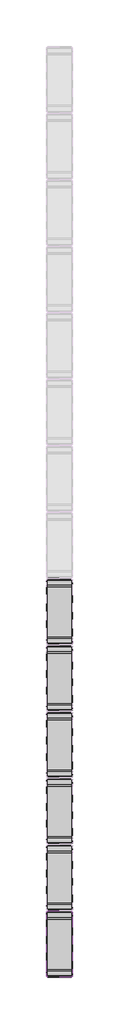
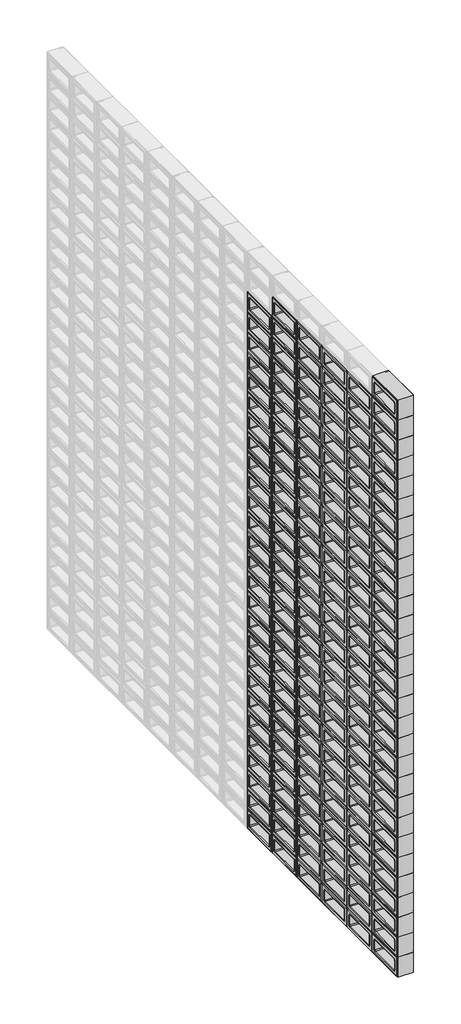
# One storey, part 1 of 59: 168 plates.
"""IFC4 building model written with IfcOpenShell, lengths in millimetres."""

from ifc_helpers import new_model, si_unit, origin, place, context, project, spatial, transform, mapped, element, save
from components import plate_12236348

model = new_model("IFC4")

# Units and contexts
model_context = context("Model", 3, world=origin())
ifc_project = project(units=[si_unit("LENGTHUNIT", "METRE", prefix="MILLI")], contexts=[model_context])

# Site, building, storey
site = spatial("IfcSite", under=ifc_project)
building = spatial("IfcBuilding", under=site)
storey = spatial("IfcBuildingStorey", under=building, Name="PORTOBELLO - SHOWROOM", Elevation=0.0)

# Plates
placement = place(None, origin())
plate_shape = plate_12236348(model_context)
element("IfcPlate", 1, ObjectType="PBSHOP - ON FIRE AURORA 9X19 (PAINEL CORTINA) : AURORA", at=placement, inside=storey, context=model_context, shape_type="MappedRepresentation", body=[
    mapped(plate_shape, transform((-33705.5633853, -9000.0202582, 0.0), x_axis=(0.0, 1.0, 0.0), y_axis=(-1.0, 0.0, 0.0), z_axis=(0.0, 0.0, 1.0))),
])
element("IfcPlate", 2, ObjectType="PBSHOP - ON FIRE AURORA 9X19 (PAINEL CORTINA) : AURORA", at=placement, inside=storey, context=model_context, shape_type="MappedRepresentation", body=[
    mapped(plate_shape, transform((-33705.5633853, -8806.0202581, 0.0), x_axis=(0.0, 1.0, 0.0), y_axis=(-1.0, 0.0, 0.0), z_axis=(0.0, 0.0, 1.0))),
])
element("IfcPlate", 3, ObjectType="PBSHOP - ON FIRE AURORA 9X19 (PAINEL CORTINA) : AURORA", at=placement, inside=storey, context=model_context, shape_type="MappedRepresentation", body=[
    mapped(plate_shape, transform((-33705.5633853, -8612.0202581, 0.0), x_axis=(0.0, 1.0, 0.0), y_axis=(-1.0, 0.0, 0.0), z_axis=(0.0, 0.0, 1.0))),
])
element("IfcPlate", 4, ObjectType="PBSHOP - ON FIRE AURORA 9X19 (PAINEL CORTINA) : AURORA", at=placement, inside=storey, context=model_context, shape_type="MappedRepresentation", body=[
    mapped(plate_shape, transform((-33705.5633853, -8418.0202581, 0.0), x_axis=(0.0, 1.0, 0.0), y_axis=(-1.0, 0.0, 0.0), z_axis=(0.0, 0.0, 1.0))),
])
element("IfcPlate", 5, ObjectType="PBSHOP - ON FIRE AURORA 9X19 (PAINEL CORTINA) : AURORA", at=placement, inside=storey, context=model_context, shape_type="MappedRepresentation", body=[
    mapped(plate_shape, transform((-33705.5633853, -8224.0202581, 0.0), x_axis=(0.0, 1.0, 0.0), y_axis=(-1.0, 0.0, 0.0), z_axis=(0.0, 0.0, 1.0))),
])
element("IfcPlate", 6, ObjectType="PBSHOP - ON FIRE AURORA 9X19 (PAINEL CORTINA) : AURORA", at=placement, inside=storey, context=model_context, shape_type="MappedRepresentation", body=[
    mapped(plate_shape, transform((-33705.5633853, -8030.0202581, 0.0), x_axis=(0.0, 1.0, 0.0), y_axis=(-1.0, 0.0, 0.0), z_axis=(0.0, 0.0, 1.0))),
])
element("IfcPlate", 7, ObjectType="PBSHOP - ON FIRE AURORA 9X19 (PAINEL CORTINA) : AURORA", at=placement, inside=storey, context=model_context, shape_type="MappedRepresentation", body=[
    mapped(plate_shape, transform((-33705.5633853, -9000.0202582, 94.0), x_axis=(0.0, 1.0, 0.0), y_axis=(-1.0, 0.0, 0.0), z_axis=(0.0, 0.0, 1.0))),
])
element("IfcPlate", 8, ObjectType="PBSHOP - ON FIRE AURORA 9X19 (PAINEL CORTINA) : AURORA", at=placement, inside=storey, context=model_context, shape_type="MappedRepresentation", body=[
    mapped(plate_shape, transform((-33705.5633853, -8806.0202581, 94.0), x_axis=(0.0, 1.0, 0.0), y_axis=(-1.0, 0.0, 0.0), z_axis=(0.0, 0.0, 1.0))),
])
element("IfcPlate", 9, ObjectType="PBSHOP - ON FIRE AURORA 9X19 (PAINEL CORTINA) : AURORA", at=placement, inside=storey, context=model_context, shape_type="MappedRepresentation", body=[
    mapped(plate_shape, transform((-33705.5633853, -8612.0202581, 94.0), x_axis=(0.0, 1.0, 0.0), y_axis=(-1.0, 0.0, 0.0), z_axis=(0.0, 0.0, 1.0))),
])
element("IfcPlate", 10, ObjectType="PBSHOP - ON FIRE AURORA 9X19 (PAINEL CORTINA) : AURORA", at=placement, inside=storey, context=model_context, shape_type="MappedRepresentation", body=[
    mapped(plate_shape, transform((-33705.5633853, -8418.0202581, 94.0), x_axis=(0.0, 1.0, 0.0), y_axis=(-1.0, 0.0, 0.0), z_axis=(0.0, 0.0, 1.0))),
])
element("IfcPlate", 11, ObjectType="PBSHOP - ON FIRE AURORA 9X19 (PAINEL CORTINA) : AURORA", at=placement, inside=storey, context=model_context, shape_type="MappedRepresentation", body=[
    mapped(plate_shape, transform((-33705.5633853, -8224.0202581, 94.0), x_axis=(0.0, 1.0, 0.0), y_axis=(-1.0, 0.0, 0.0), z_axis=(0.0, 0.0, 1.0))),
])
element("IfcPlate", 12, ObjectType="PBSHOP - ON FIRE AURORA 9X19 (PAINEL CORTINA) : AURORA", at=placement, inside=storey, context=model_context, shape_type="MappedRepresentation", body=[
    mapped(plate_shape, transform((-33705.5633853, -8030.0202581, 94.0), x_axis=(0.0, 1.0, 0.0), y_axis=(-1.0, 0.0, 0.0), z_axis=(0.0, 0.0, 1.0))),
])
element("IfcPlate", 13, ObjectType="PBSHOP - ON FIRE AURORA 9X19 (PAINEL CORTINA) : AURORA", at=placement, inside=storey, context=model_context, shape_type="MappedRepresentation", body=[
    mapped(plate_shape, transform((-33705.5633853, -9000.0202582, 188.0), x_axis=(0.0, 1.0, 0.0), y_axis=(-1.0, 0.0, 0.0), z_axis=(0.0, 0.0, 1.0))),
])
element("IfcPlate", 14, ObjectType="PBSHOP - ON FIRE AURORA 9X19 (PAINEL CORTINA) : AURORA", at=placement, inside=storey, context=model_context, shape_type="MappedRepresentation", body=[
    mapped(plate_shape, transform((-33705.5633853, -8806.0202581, 188.0), x_axis=(0.0, 1.0, 0.0), y_axis=(-1.0, 0.0, 0.0), z_axis=(0.0, 0.0, 1.0))),
])
element("IfcPlate", 15, ObjectType="PBSHOP - ON FIRE AURORA 9X19 (PAINEL CORTINA) : AURORA", at=placement, inside=storey, context=model_context, shape_type="MappedRepresentation", body=[
    mapped(plate_shape, transform((-33705.5633853, -8612.0202581, 188.0), x_axis=(0.0, 1.0, 0.0), y_axis=(-1.0, 0.0, 0.0), z_axis=(0.0, 0.0, 1.0))),
])
element("IfcPlate", 16, ObjectType="PBSHOP - ON FIRE AURORA 9X19 (PAINEL CORTINA) : AURORA", at=placement, inside=storey, context=model_context, shape_type="MappedRepresentation", body=[
    mapped(plate_shape, transform((-33705.5633853, -8418.0202581, 188.0), x_axis=(0.0, 1.0, 0.0), y_axis=(-1.0, 0.0, 0.0), z_axis=(0.0, 0.0, 1.0))),
])
element("IfcPlate", 17, ObjectType="PBSHOP - ON FIRE AURORA 9X19 (PAINEL CORTINA) : AURORA", at=placement, inside=storey, context=model_context, shape_type="MappedRepresentation", body=[
    mapped(plate_shape, transform((-33705.5633853, -8224.0202581, 188.0), x_axis=(0.0, 1.0, 0.0), y_axis=(-1.0, 0.0, 0.0), z_axis=(0.0, 0.0, 1.0))),
])
element("IfcPlate", 18, ObjectType="PBSHOP - ON FIRE AURORA 9X19 (PAINEL CORTINA) : AURORA", at=placement, inside=storey, context=model_context, shape_type="MappedRepresentation", body=[
    mapped(plate_shape, transform((-33705.5633853, -8030.0202581, 188.0), x_axis=(0.0, 1.0, 0.0), y_axis=(-1.0, 0.0, 0.0), z_axis=(0.0, 0.0, 1.0))),
])
element("IfcPlate", 19, ObjectType="PBSHOP - ON FIRE AURORA 9X19 (PAINEL CORTINA) : AURORA", at=placement, inside=storey, context=model_context, shape_type="MappedRepresentation", body=[
    mapped(plate_shape, transform((-33705.5633853, -9000.0202582, 282.0), x_axis=(0.0, 1.0, 0.0), y_axis=(-1.0, 0.0, 0.0), z_axis=(0.0, 0.0, 1.0))),
])
element("IfcPlate", 20, ObjectType="PBSHOP - ON FIRE AURORA 9X19 (PAINEL CORTINA) : AURORA", at=placement, inside=storey, context=model_context, shape_type="MappedRepresentation", body=[
    mapped(plate_shape, transform((-33705.5633853, -8806.0202581, 282.0), x_axis=(0.0, 1.0, 0.0), y_axis=(-1.0, 0.0, 0.0), z_axis=(0.0, 0.0, 1.0))),
])
element("IfcPlate", 21, ObjectType="PBSHOP - ON FIRE AURORA 9X19 (PAINEL CORTINA) : AURORA", at=placement, inside=storey, context=model_context, shape_type="MappedRepresentation", body=[
    mapped(plate_shape, transform((-33705.5633853, -8612.0202581, 282.0), x_axis=(0.0, 1.0, 0.0), y_axis=(-1.0, 0.0, 0.0), z_axis=(0.0, 0.0, 1.0))),
])
element("IfcPlate", 22, ObjectType="PBSHOP - ON FIRE AURORA 9X19 (PAINEL CORTINA) : AURORA", at=placement, inside=storey, context=model_context, shape_type="MappedRepresentation", body=[
    mapped(plate_shape, transform((-33705.5633853, -8418.0202581, 282.0), x_axis=(0.0, 1.0, 0.0), y_axis=(-1.0, 0.0, 0.0), z_axis=(0.0, 0.0, 1.0))),
])
element("IfcPlate", 23, ObjectType="PBSHOP - ON FIRE AURORA 9X19 (PAINEL CORTINA) : AURORA", at=placement, inside=storey, context=model_context, shape_type="MappedRepresentation", body=[
    mapped(plate_shape, transform((-33705.5633853, -8224.0202581, 282.0), x_axis=(0.0, 1.0, 0.0), y_axis=(-1.0, 0.0, 0.0), z_axis=(0.0, 0.0, 1.0))),
])
element("IfcPlate", 24, ObjectType="PBSHOP - ON FIRE AURORA 9X19 (PAINEL CORTINA) : AURORA", at=placement, inside=storey, context=model_context, shape_type="MappedRepresentation", body=[
    mapped(plate_shape, transform((-33705.5633853, -8030.0202581, 282.0), x_axis=(0.0, 1.0, 0.0), y_axis=(-1.0, 0.0, 0.0), z_axis=(0.0, 0.0, 1.0))),
])
element("IfcPlate", 25, ObjectType="PBSHOP - ON FIRE AURORA 9X19 (PAINEL CORTINA) : AURORA", at=placement, inside=storey, context=model_context, shape_type="MappedRepresentation", body=[
    mapped(plate_shape, transform((-33705.5633853, -9000.0202582, 376.0), x_axis=(0.0, 1.0, 0.0), y_axis=(-1.0, 0.0, 0.0), z_axis=(0.0, 0.0, 1.0))),
])
element("IfcPlate", 26, ObjectType="PBSHOP - ON FIRE AURORA 9X19 (PAINEL CORTINA) : AURORA", at=placement, inside=storey, context=model_context, shape_type="MappedRepresentation", body=[
    mapped(plate_shape, transform((-33705.5633853, -8806.0202581, 376.0), x_axis=(0.0, 1.0, 0.0), y_axis=(-1.0, 0.0, 0.0), z_axis=(0.0, 0.0, 1.0))),
])
element("IfcPlate", 27, ObjectType="PBSHOP - ON FIRE AURORA 9X19 (PAINEL CORTINA) : AURORA", at=placement, inside=storey, context=model_context, shape_type="MappedRepresentation", body=[
    mapped(plate_shape, transform((-33705.5633853, -8612.0202581, 376.0), x_axis=(0.0, 1.0, 0.0), y_axis=(-1.0, 0.0, 0.0), z_axis=(0.0, 0.0, 1.0))),
])
element("IfcPlate", 28, ObjectType="PBSHOP - ON FIRE AURORA 9X19 (PAINEL CORTINA) : AURORA", at=placement, inside=storey, context=model_context, shape_type="MappedRepresentation", body=[
    mapped(plate_shape, transform((-33705.5633853, -8418.0202581, 376.0), x_axis=(0.0, 1.0, 0.0), y_axis=(-1.0, 0.0, 0.0), z_axis=(0.0, 0.0, 1.0))),
])
element("IfcPlate", 29, ObjectType="PBSHOP - ON FIRE AURORA 9X19 (PAINEL CORTINA) : AURORA", at=placement, inside=storey, context=model_context, shape_type="MappedRepresentation", body=[
    mapped(plate_shape, transform((-33705.5633853, -8224.0202581, 376.0), x_axis=(0.0, 1.0, 0.0), y_axis=(-1.0, 0.0, 0.0), z_axis=(0.0, 0.0, 1.0))),
])
element("IfcPlate", 30, ObjectType="PBSHOP - ON FIRE AURORA 9X19 (PAINEL CORTINA) : AURORA", at=placement, inside=storey, context=model_context, shape_type="MappedRepresentation", body=[
    mapped(plate_shape, transform((-33705.5633853, -8030.0202581, 376.0), x_axis=(0.0, 1.0, 0.0), y_axis=(-1.0, 0.0, 0.0), z_axis=(0.0, 0.0, 1.0))),
])
element("IfcPlate", 31, ObjectType="PBSHOP - ON FIRE AURORA 9X19 (PAINEL CORTINA) : AURORA", at=placement, inside=storey, context=model_context, shape_type="MappedRepresentation", body=[
    mapped(plate_shape, transform((-33705.5633853, -9000.0202582, 470.0), x_axis=(0.0, 1.0, 0.0), y_axis=(-1.0, 0.0, 0.0), z_axis=(0.0, 0.0, 1.0))),
])
element("IfcPlate", 32, ObjectType="PBSHOP - ON FIRE AURORA 9X19 (PAINEL CORTINA) : AURORA", at=placement, inside=storey, context=model_context, shape_type="MappedRepresentation", body=[
    mapped(plate_shape, transform((-33705.5633853, -8806.0202581, 470.0), x_axis=(0.0, 1.0, 0.0), y_axis=(-1.0, 0.0, 0.0), z_axis=(0.0, 0.0, 1.0))),
])
element("IfcPlate", 33, ObjectType="PBSHOP - ON FIRE AURORA 9X19 (PAINEL CORTINA) : AURORA", at=placement, inside=storey, context=model_context, shape_type="MappedRepresentation", body=[
    mapped(plate_shape, transform((-33705.5633853, -8612.0202581, 470.0), x_axis=(0.0, 1.0, 0.0), y_axis=(-1.0, 0.0, 0.0), z_axis=(0.0, 0.0, 1.0))),
])
element("IfcPlate", 34, ObjectType="PBSHOP - ON FIRE AURORA 9X19 (PAINEL CORTINA) : AURORA", at=placement, inside=storey, context=model_context, shape_type="MappedRepresentation", body=[
    mapped(plate_shape, transform((-33705.5633853, -8418.0202581, 470.0), x_axis=(0.0, 1.0, 0.0), y_axis=(-1.0, 0.0, 0.0), z_axis=(0.0, 0.0, 1.0))),
])
element("IfcPlate", 35, ObjectType="PBSHOP - ON FIRE AURORA 9X19 (PAINEL CORTINA) : AURORA", at=placement, inside=storey, context=model_context, shape_type="MappedRepresentation", body=[
    mapped(plate_shape, transform((-33705.5633853, -8224.0202581, 470.0), x_axis=(0.0, 1.0, 0.0), y_axis=(-1.0, 0.0, 0.0), z_axis=(0.0, 0.0, 1.0))),
])
element("IfcPlate", 36, ObjectType="PBSHOP - ON FIRE AURORA 9X19 (PAINEL CORTINA) : AURORA", at=placement, inside=storey, context=model_context, shape_type="MappedRepresentation", body=[
    mapped(plate_shape, transform((-33705.5633853, -8030.0202581, 470.0), x_axis=(0.0, 1.0, 0.0), y_axis=(-1.0, 0.0, 0.0), z_axis=(0.0, 0.0, 1.0))),
])
element("IfcPlate", 37, ObjectType="PBSHOP - ON FIRE AURORA 9X19 (PAINEL CORTINA) : AURORA", at=placement, inside=storey, context=model_context, shape_type="MappedRepresentation", body=[
    mapped(plate_shape, transform((-33705.5633853, -9000.0202582, 564.0), x_axis=(0.0, 1.0, 0.0), y_axis=(-1.0, 0.0, 0.0), z_axis=(0.0, 0.0, 1.0))),
])
element("IfcPlate", 38, ObjectType="PBSHOP - ON FIRE AURORA 9X19 (PAINEL CORTINA) : AURORA", at=placement, inside=storey, context=model_context, shape_type="MappedRepresentation", body=[
    mapped(plate_shape, transform((-33705.5633853, -8806.0202581, 564.0), x_axis=(0.0, 1.0, 0.0), y_axis=(-1.0, 0.0, 0.0), z_axis=(0.0, 0.0, 1.0))),
])
element("IfcPlate", 39, ObjectType="PBSHOP - ON FIRE AURORA 9X19 (PAINEL CORTINA) : AURORA", at=placement, inside=storey, context=model_context, shape_type="MappedRepresentation", body=[
    mapped(plate_shape, transform((-33705.5633853, -8612.0202581, 564.0), x_axis=(0.0, 1.0, 0.0), y_axis=(-1.0, 0.0, 0.0), z_axis=(0.0, 0.0, 1.0))),
])
element("IfcPlate", 40, ObjectType="PBSHOP - ON FIRE AURORA 9X19 (PAINEL CORTINA) : AURORA", at=placement, inside=storey, context=model_context, shape_type="MappedRepresentation", body=[
    mapped(plate_shape, transform((-33705.5633853, -8418.0202581, 564.0), x_axis=(0.0, 1.0, 0.0), y_axis=(-1.0, 0.0, 0.0), z_axis=(0.0, 0.0, 1.0))),
])
element("IfcPlate", 41, ObjectType="PBSHOP - ON FIRE AURORA 9X19 (PAINEL CORTINA) : AURORA", at=placement, inside=storey, context=model_context, shape_type="MappedRepresentation", body=[
    mapped(plate_shape, transform((-33705.5633853, -8224.0202581, 564.0), x_axis=(0.0, 1.0, 0.0), y_axis=(-1.0, 0.0, 0.0), z_axis=(0.0, 0.0, 1.0))),
])
element("IfcPlate", 42, ObjectType="PBSHOP - ON FIRE AURORA 9X19 (PAINEL CORTINA) : AURORA", at=placement, inside=storey, context=model_context, shape_type="MappedRepresentation", body=[
    mapped(plate_shape, transform((-33705.5633853, -8030.0202581, 564.0), x_axis=(0.0, 1.0, 0.0), y_axis=(-1.0, 0.0, 0.0), z_axis=(0.0, 0.0, 1.0))),
])
element("IfcPlate", 43, ObjectType="PBSHOP - ON FIRE AURORA 9X19 (PAINEL CORTINA) : AURORA", at=placement, inside=storey, context=model_context, shape_type="MappedRepresentation", body=[
    mapped(plate_shape, transform((-33705.5633853, -9000.0202582, 658.0), x_axis=(0.0, 1.0, 0.0), y_axis=(-1.0, 0.0, 0.0), z_axis=(0.0, 0.0, 1.0))),
])
element("IfcPlate", 44, ObjectType="PBSHOP - ON FIRE AURORA 9X19 (PAINEL CORTINA) : AURORA", at=placement, inside=storey, context=model_context, shape_type="MappedRepresentation", body=[
    mapped(plate_shape, transform((-33705.5633853, -8806.0202581, 658.0), x_axis=(0.0, 1.0, 0.0), y_axis=(-1.0, 0.0, 0.0), z_axis=(0.0, 0.0, 1.0))),
])
element("IfcPlate", 45, ObjectType="PBSHOP - ON FIRE AURORA 9X19 (PAINEL CORTINA) : AURORA", at=placement, inside=storey, context=model_context, shape_type="MappedRepresentation", body=[
    mapped(plate_shape, transform((-33705.5633853, -8612.0202581, 658.0), x_axis=(0.0, 1.0, 0.0), y_axis=(-1.0, 0.0, 0.0), z_axis=(0.0, 0.0, 1.0))),
])
element("IfcPlate", 46, ObjectType="PBSHOP - ON FIRE AURORA 9X19 (PAINEL CORTINA) : AURORA", at=placement, inside=storey, context=model_context, shape_type="MappedRepresentation", body=[
    mapped(plate_shape, transform((-33705.5633853, -8418.0202581, 658.0), x_axis=(0.0, 1.0, 0.0), y_axis=(-1.0, 0.0, 0.0), z_axis=(0.0, 0.0, 1.0))),
])
element("IfcPlate", 47, ObjectType="PBSHOP - ON FIRE AURORA 9X19 (PAINEL CORTINA) : AURORA", at=placement, inside=storey, context=model_context, shape_type="MappedRepresentation", body=[
    mapped(plate_shape, transform((-33705.5633853, -8224.0202581, 658.0), x_axis=(0.0, 1.0, 0.0), y_axis=(-1.0, 0.0, 0.0), z_axis=(0.0, 0.0, 1.0))),
])
element("IfcPlate", 48, ObjectType="PBSHOP - ON FIRE AURORA 9X19 (PAINEL CORTINA) : AURORA", at=placement, inside=storey, context=model_context, shape_type="MappedRepresentation", body=[
    mapped(plate_shape, transform((-33705.5633853, -8030.0202581, 658.0), x_axis=(0.0, 1.0, 0.0), y_axis=(-1.0, 0.0, 0.0), z_axis=(0.0, 0.0, 1.0))),
])
element("IfcPlate", 49, ObjectType="PBSHOP - ON FIRE AURORA 9X19 (PAINEL CORTINA) : AURORA", at=placement, inside=storey, context=model_context, shape_type="MappedRepresentation", body=[
    mapped(plate_shape, transform((-33705.5633853, -9000.0202582, 752.0), x_axis=(0.0, 1.0, 0.0), y_axis=(-1.0, 0.0, 0.0), z_axis=(0.0, 0.0, 1.0))),
])
element("IfcPlate", 50, ObjectType="PBSHOP - ON FIRE AURORA 9X19 (PAINEL CORTINA) : AURORA", at=placement, inside=storey, context=model_context, shape_type="MappedRepresentation", body=[
    mapped(plate_shape, transform((-33705.5633853, -8806.0202581, 752.0), x_axis=(0.0, 1.0, 0.0), y_axis=(-1.0, 0.0, 0.0), z_axis=(0.0, 0.0, 1.0))),
])
element("IfcPlate", 51, ObjectType="PBSHOP - ON FIRE AURORA 9X19 (PAINEL CORTINA) : AURORA", at=placement, inside=storey, context=model_context, shape_type="MappedRepresentation", body=[
    mapped(plate_shape, transform((-33705.5633853, -8612.0202581, 752.0), x_axis=(0.0, 1.0, 0.0), y_axis=(-1.0, 0.0, 0.0), z_axis=(0.0, 0.0, 1.0))),
])
element("IfcPlate", 52, ObjectType="PBSHOP - ON FIRE AURORA 9X19 (PAINEL CORTINA) : AURORA", at=placement, inside=storey, context=model_context, shape_type="MappedRepresentation", body=[
    mapped(plate_shape, transform((-33705.5633853, -8418.0202581, 752.0), x_axis=(0.0, 1.0, 0.0), y_axis=(-1.0, 0.0, 0.0), z_axis=(0.0, 0.0, 1.0))),
])
element("IfcPlate", 53, ObjectType="PBSHOP - ON FIRE AURORA 9X19 (PAINEL CORTINA) : AURORA", at=placement, inside=storey, context=model_context, shape_type="MappedRepresentation", body=[
    mapped(plate_shape, transform((-33705.5633853, -8224.0202581, 752.0), x_axis=(0.0, 1.0, 0.0), y_axis=(-1.0, 0.0, 0.0), z_axis=(0.0, 0.0, 1.0))),
])
element("IfcPlate", 54, ObjectType="PBSHOP - ON FIRE AURORA 9X19 (PAINEL CORTINA) : AURORA", at=placement, inside=storey, context=model_context, shape_type="MappedRepresentation", body=[
    mapped(plate_shape, transform((-33705.5633853, -8030.0202581, 752.0), x_axis=(0.0, 1.0, 0.0), y_axis=(-1.0, 0.0, 0.0), z_axis=(0.0, 0.0, 1.0))),
])
element("IfcPlate", 55, ObjectType="PBSHOP - ON FIRE AURORA 9X19 (PAINEL CORTINA) : AURORA", at=placement, inside=storey, context=model_context, shape_type="MappedRepresentation", body=[
    mapped(plate_shape, transform((-33705.5633853, -9000.0202582, 846.0), x_axis=(0.0, 1.0, 0.0), y_axis=(-1.0, 0.0, 0.0), z_axis=(0.0, 0.0, 1.0))),
])
element("IfcPlate", 56, ObjectType="PBSHOP - ON FIRE AURORA 9X19 (PAINEL CORTINA) : AURORA", at=placement, inside=storey, context=model_context, shape_type="MappedRepresentation", body=[
    mapped(plate_shape, transform((-33705.5633853, -8806.0202581, 846.0), x_axis=(0.0, 1.0, 0.0), y_axis=(-1.0, 0.0, 0.0), z_axis=(0.0, 0.0, 1.0))),
])
element("IfcPlate", 57, ObjectType="PBSHOP - ON FIRE AURORA 9X19 (PAINEL CORTINA) : AURORA", at=placement, inside=storey, context=model_context, shape_type="MappedRepresentation", body=[
    mapped(plate_shape, transform((-33705.5633853, -8612.0202581, 846.0), x_axis=(0.0, 1.0, 0.0), y_axis=(-1.0, 0.0, 0.0), z_axis=(0.0, 0.0, 1.0))),
])
element("IfcPlate", 58, ObjectType="PBSHOP - ON FIRE AURORA 9X19 (PAINEL CORTINA) : AURORA", at=placement, inside=storey, context=model_context, shape_type="MappedRepresentation", body=[
    mapped(plate_shape, transform((-33705.5633853, -8418.0202581, 846.0), x_axis=(0.0, 1.0, 0.0), y_axis=(-1.0, 0.0, 0.0), z_axis=(0.0, 0.0, 1.0))),
])
element("IfcPlate", 59, ObjectType="PBSHOP - ON FIRE AURORA 9X19 (PAINEL CORTINA) : AURORA", at=placement, inside=storey, context=model_context, shape_type="MappedRepresentation", body=[
    mapped(plate_shape, transform((-33705.5633853, -8224.0202581, 846.0), x_axis=(0.0, 1.0, 0.0), y_axis=(-1.0, 0.0, 0.0), z_axis=(0.0, 0.0, 1.0))),
])
element("IfcPlate", 60, ObjectType="PBSHOP - ON FIRE AURORA 9X19 (PAINEL CORTINA) : AURORA", at=placement, inside=storey, context=model_context, shape_type="MappedRepresentation", body=[
    mapped(plate_shape, transform((-33705.5633853, -8030.0202581, 846.0), x_axis=(0.0, 1.0, 0.0), y_axis=(-1.0, 0.0, 0.0), z_axis=(0.0, 0.0, 1.0))),
])
element("IfcPlate", 61, ObjectType="PBSHOP - ON FIRE AURORA 9X19 (PAINEL CORTINA) : AURORA", at=placement, inside=storey, context=model_context, shape_type="MappedRepresentation", body=[
    mapped(plate_shape, transform((-33705.5633853, -9000.0202582, 940.0), x_axis=(0.0, 1.0, 0.0), y_axis=(-1.0, 0.0, 0.0), z_axis=(0.0, 0.0, 1.0))),
])
element("IfcPlate", 62, ObjectType="PBSHOP - ON FIRE AURORA 9X19 (PAINEL CORTINA) : AURORA", at=placement, inside=storey, context=model_context, shape_type="MappedRepresentation", body=[
    mapped(plate_shape, transform((-33705.5633853, -8806.0202581, 940.0), x_axis=(0.0, 1.0, 0.0), y_axis=(-1.0, 0.0, 0.0), z_axis=(0.0, 0.0, 1.0))),
])
element("IfcPlate", 63, ObjectType="PBSHOP - ON FIRE AURORA 9X19 (PAINEL CORTINA) : AURORA", at=placement, inside=storey, context=model_context, shape_type="MappedRepresentation", body=[
    mapped(plate_shape, transform((-33705.5633853, -8612.0202581, 940.0), x_axis=(0.0, 1.0, 0.0), y_axis=(-1.0, 0.0, 0.0), z_axis=(0.0, 0.0, 1.0))),
])
element("IfcPlate", 64, ObjectType="PBSHOP - ON FIRE AURORA 9X19 (PAINEL CORTINA) : AURORA", at=placement, inside=storey, context=model_context, shape_type="MappedRepresentation", body=[
    mapped(plate_shape, transform((-33705.5633853, -8418.0202581, 940.0), x_axis=(0.0, 1.0, 0.0), y_axis=(-1.0, 0.0, 0.0), z_axis=(0.0, 0.0, 1.0))),
])
element("IfcPlate", 65, ObjectType="PBSHOP - ON FIRE AURORA 9X19 (PAINEL CORTINA) : AURORA", at=placement, inside=storey, context=model_context, shape_type="MappedRepresentation", body=[
    mapped(plate_shape, transform((-33705.5633853, -8224.0202581, 940.0), x_axis=(0.0, 1.0, 0.0), y_axis=(-1.0, 0.0, 0.0), z_axis=(0.0, 0.0, 1.0))),
])
element("IfcPlate", 66, ObjectType="PBSHOP - ON FIRE AURORA 9X19 (PAINEL CORTINA) : AURORA", at=placement, inside=storey, context=model_context, shape_type="MappedRepresentation", body=[
    mapped(plate_shape, transform((-33705.5633853, -8030.0202581, 940.0), x_axis=(0.0, 1.0, 0.0), y_axis=(-1.0, 0.0, 0.0), z_axis=(0.0, 0.0, 1.0))),
])
element("IfcPlate", 67, ObjectType="PBSHOP - ON FIRE AURORA 9X19 (PAINEL CORTINA) : AURORA", at=placement, inside=storey, context=model_context, shape_type="MappedRepresentation", body=[
    mapped(plate_shape, transform((-33705.5633853, -9000.0202582, 1034.0), x_axis=(0.0, 1.0, 0.0), y_axis=(-1.0, 0.0, 0.0), z_axis=(0.0, 0.0, 1.0))),
])
element("IfcPlate", 68, ObjectType="PBSHOP - ON FIRE AURORA 9X19 (PAINEL CORTINA) : AURORA", at=placement, inside=storey, context=model_context, shape_type="MappedRepresentation", body=[
    mapped(plate_shape, transform((-33705.5633853, -8806.0202581, 1034.0), x_axis=(0.0, 1.0, 0.0), y_axis=(-1.0, 0.0, 0.0), z_axis=(0.0, 0.0, 1.0))),
])
element("IfcPlate", 69, ObjectType="PBSHOP - ON FIRE AURORA 9X19 (PAINEL CORTINA) : AURORA", at=placement, inside=storey, context=model_context, shape_type="MappedRepresentation", body=[
    mapped(plate_shape, transform((-33705.5633853, -8612.0202581, 1034.0), x_axis=(0.0, 1.0, 0.0), y_axis=(-1.0, 0.0, 0.0), z_axis=(0.0, 0.0, 1.0))),
])
element("IfcPlate", 70, ObjectType="PBSHOP - ON FIRE AURORA 9X19 (PAINEL CORTINA) : AURORA", at=placement, inside=storey, context=model_context, shape_type="MappedRepresentation", body=[
    mapped(plate_shape, transform((-33705.5633853, -8418.0202581, 1034.0), x_axis=(0.0, 1.0, 0.0), y_axis=(-1.0, 0.0, 0.0), z_axis=(0.0, 0.0, 1.0))),
])
element("IfcPlate", 71, ObjectType="PBSHOP - ON FIRE AURORA 9X19 (PAINEL CORTINA) : AURORA", at=placement, inside=storey, context=model_context, shape_type="MappedRepresentation", body=[
    mapped(plate_shape, transform((-33705.5633853, -8224.0202581, 1034.0), x_axis=(0.0, 1.0, 0.0), y_axis=(-1.0, 0.0, 0.0), z_axis=(0.0, 0.0, 1.0))),
])
element("IfcPlate", 72, ObjectType="PBSHOP - ON FIRE AURORA 9X19 (PAINEL CORTINA) : AURORA", at=placement, inside=storey, context=model_context, shape_type="MappedRepresentation", body=[
    mapped(plate_shape, transform((-33705.5633853, -8030.0202581, 1034.0), x_axis=(0.0, 1.0, 0.0), y_axis=(-1.0, 0.0, 0.0), z_axis=(0.0, 0.0, 1.0))),
])
element("IfcPlate", 73, ObjectType="PBSHOP - ON FIRE AURORA 9X19 (PAINEL CORTINA) : AURORA", at=placement, inside=storey, context=model_context, shape_type="MappedRepresentation", body=[
    mapped(plate_shape, transform((-33705.5633853, -9000.0202582, 1128.0), x_axis=(0.0, 1.0, 0.0), y_axis=(-1.0, 0.0, 0.0), z_axis=(0.0, 0.0, 1.0))),
])
element("IfcPlate", 74, ObjectType="PBSHOP - ON FIRE AURORA 9X19 (PAINEL CORTINA) : AURORA", at=placement, inside=storey, context=model_context, shape_type="MappedRepresentation", body=[
    mapped(plate_shape, transform((-33705.5633853, -8806.0202581, 1128.0), x_axis=(0.0, 1.0, 0.0), y_axis=(-1.0, 0.0, 0.0), z_axis=(0.0, 0.0, 1.0))),
])
element("IfcPlate", 75, ObjectType="PBSHOP - ON FIRE AURORA 9X19 (PAINEL CORTINA) : AURORA", at=placement, inside=storey, context=model_context, shape_type="MappedRepresentation", body=[
    mapped(plate_shape, transform((-33705.5633853, -8612.0202581, 1128.0), x_axis=(0.0, 1.0, 0.0), y_axis=(-1.0, 0.0, 0.0), z_axis=(0.0, 0.0, 1.0))),
])
element("IfcPlate", 76, ObjectType="PBSHOP - ON FIRE AURORA 9X19 (PAINEL CORTINA) : AURORA", at=placement, inside=storey, context=model_context, shape_type="MappedRepresentation", body=[
    mapped(plate_shape, transform((-33705.5633853, -8418.0202581, 1128.0), x_axis=(0.0, 1.0, 0.0), y_axis=(-1.0, 0.0, 0.0), z_axis=(0.0, 0.0, 1.0))),
])
element("IfcPlate", 77, ObjectType="PBSHOP - ON FIRE AURORA 9X19 (PAINEL CORTINA) : AURORA", at=placement, inside=storey, context=model_context, shape_type="MappedRepresentation", body=[
    mapped(plate_shape, transform((-33705.5633853, -8224.0202581, 1128.0), x_axis=(0.0, 1.0, 0.0), y_axis=(-1.0, 0.0, 0.0), z_axis=(0.0, 0.0, 1.0))),
])
element("IfcPlate", 78, ObjectType="PBSHOP - ON FIRE AURORA 9X19 (PAINEL CORTINA) : AURORA", at=placement, inside=storey, context=model_context, shape_type="MappedRepresentation", body=[
    mapped(plate_shape, transform((-33705.5633853, -8030.0202581, 1128.0), x_axis=(0.0, 1.0, 0.0), y_axis=(-1.0, 0.0, 0.0), z_axis=(0.0, 0.0, 1.0))),
])
element("IfcPlate", 79, ObjectType="PBSHOP - ON FIRE AURORA 9X19 (PAINEL CORTINA) : AURORA", at=placement, inside=storey, context=model_context, shape_type="MappedRepresentation", body=[
    mapped(plate_shape, transform((-33705.5633853, -9000.0202582, 1222.0), x_axis=(0.0, 1.0, 0.0), y_axis=(-1.0, 0.0, 0.0), z_axis=(0.0, 0.0, 1.0))),
])
element("IfcPlate", 80, ObjectType="PBSHOP - ON FIRE AURORA 9X19 (PAINEL CORTINA) : AURORA", at=placement, inside=storey, context=model_context, shape_type="MappedRepresentation", body=[
    mapped(plate_shape, transform((-33705.5633853, -8806.0202581, 1222.0), x_axis=(0.0, 1.0, 0.0), y_axis=(-1.0, 0.0, 0.0), z_axis=(0.0, 0.0, 1.0))),
])
element("IfcPlate", 81, ObjectType="PBSHOP - ON FIRE AURORA 9X19 (PAINEL CORTINA) : AURORA", at=placement, inside=storey, context=model_context, shape_type="MappedRepresentation", body=[
    mapped(plate_shape, transform((-33705.5633853, -8612.0202581, 1222.0), x_axis=(0.0, 1.0, 0.0), y_axis=(-1.0, 0.0, 0.0), z_axis=(0.0, 0.0, 1.0))),
])
element("IfcPlate", 82, ObjectType="PBSHOP - ON FIRE AURORA 9X19 (PAINEL CORTINA) : AURORA", at=placement, inside=storey, context=model_context, shape_type="MappedRepresentation", body=[
    mapped(plate_shape, transform((-33705.5633853, -8418.0202581, 1222.0), x_axis=(0.0, 1.0, 0.0), y_axis=(-1.0, 0.0, 0.0), z_axis=(0.0, 0.0, 1.0))),
])
element("IfcPlate", 83, ObjectType="PBSHOP - ON FIRE AURORA 9X19 (PAINEL CORTINA) : AURORA", at=placement, inside=storey, context=model_context, shape_type="MappedRepresentation", body=[
    mapped(plate_shape, transform((-33705.5633853, -8224.0202581, 1222.0), x_axis=(0.0, 1.0, 0.0), y_axis=(-1.0, 0.0, 0.0), z_axis=(0.0, 0.0, 1.0))),
])
element("IfcPlate", 84, ObjectType="PBSHOP - ON FIRE AURORA 9X19 (PAINEL CORTINA) : AURORA", at=placement, inside=storey, context=model_context, shape_type="MappedRepresentation", body=[
    mapped(plate_shape, transform((-33705.5633853, -8030.0202581, 1222.0), x_axis=(0.0, 1.0, 0.0), y_axis=(-1.0, 0.0, 0.0), z_axis=(0.0, 0.0, 1.0))),
])
element("IfcPlate", 85, ObjectType="PBSHOP - ON FIRE AURORA 9X19 (PAINEL CORTINA) : AURORA", at=placement, inside=storey, context=model_context, shape_type="MappedRepresentation", body=[
    mapped(plate_shape, transform((-33705.5633853, -9000.0202582, 1316.0), x_axis=(0.0, 1.0, 0.0), y_axis=(-1.0, 0.0, 0.0), z_axis=(0.0, 0.0, 1.0))),
])
element("IfcPlate", 86, ObjectType="PBSHOP - ON FIRE AURORA 9X19 (PAINEL CORTINA) : AURORA", at=placement, inside=storey, context=model_context, shape_type="MappedRepresentation", body=[
    mapped(plate_shape, transform((-33705.5633853, -8806.0202581, 1316.0), x_axis=(0.0, 1.0, 0.0), y_axis=(-1.0, 0.0, 0.0), z_axis=(0.0, 0.0, 1.0))),
])
element("IfcPlate", 87, ObjectType="PBSHOP - ON FIRE AURORA 9X19 (PAINEL CORTINA) : AURORA", at=placement, inside=storey, context=model_context, shape_type="MappedRepresentation", body=[
    mapped(plate_shape, transform((-33705.5633853, -8612.0202581, 1316.0), x_axis=(0.0, 1.0, 0.0), y_axis=(-1.0, 0.0, 0.0), z_axis=(0.0, 0.0, 1.0))),
])
element("IfcPlate", 88, ObjectType="PBSHOP - ON FIRE AURORA 9X19 (PAINEL CORTINA) : AURORA", at=placement, inside=storey, context=model_context, shape_type="MappedRepresentation", body=[
    mapped(plate_shape, transform((-33705.5633853, -8418.0202581, 1316.0), x_axis=(0.0, 1.0, 0.0), y_axis=(-1.0, 0.0, 0.0), z_axis=(0.0, 0.0, 1.0))),
])
element("IfcPlate", 89, ObjectType="PBSHOP - ON FIRE AURORA 9X19 (PAINEL CORTINA) : AURORA", at=placement, inside=storey, context=model_context, shape_type="MappedRepresentation", body=[
    mapped(plate_shape, transform((-33705.5633853, -8224.0202581, 1316.0), x_axis=(0.0, 1.0, 0.0), y_axis=(-1.0, 0.0, 0.0), z_axis=(0.0, 0.0, 1.0))),
])
element("IfcPlate", 90, ObjectType="PBSHOP - ON FIRE AURORA 9X19 (PAINEL CORTINA) : AURORA", at=placement, inside=storey, context=model_context, shape_type="MappedRepresentation", body=[
    mapped(plate_shape, transform((-33705.5633853, -8030.0202581, 1316.0), x_axis=(0.0, 1.0, 0.0), y_axis=(-1.0, 0.0, 0.0), z_axis=(0.0, 0.0, 1.0))),
])
element("IfcPlate", 91, ObjectType="PBSHOP - ON FIRE AURORA 9X19 (PAINEL CORTINA) : AURORA", at=placement, inside=storey, context=model_context, shape_type="MappedRepresentation", body=[
    mapped(plate_shape, transform((-33705.5633853, -9000.0202582, 1410.0), x_axis=(0.0, 1.0, 0.0), y_axis=(-1.0, 0.0, 0.0), z_axis=(0.0, 0.0, 1.0))),
])
element("IfcPlate", 92, ObjectType="PBSHOP - ON FIRE AURORA 9X19 (PAINEL CORTINA) : AURORA", at=placement, inside=storey, context=model_context, shape_type="MappedRepresentation", body=[
    mapped(plate_shape, transform((-33705.5633853, -8806.0202581, 1410.0), x_axis=(0.0, 1.0, 0.0), y_axis=(-1.0, 0.0, 0.0), z_axis=(0.0, 0.0, 1.0))),
])
element("IfcPlate", 93, ObjectType="PBSHOP - ON FIRE AURORA 9X19 (PAINEL CORTINA) : AURORA", at=placement, inside=storey, context=model_context, shape_type="MappedRepresentation", body=[
    mapped(plate_shape, transform((-33705.5633853, -8612.0202581, 1410.0), x_axis=(0.0, 1.0, 0.0), y_axis=(-1.0, 0.0, 0.0), z_axis=(0.0, 0.0, 1.0))),
])
element("IfcPlate", 94, ObjectType="PBSHOP - ON FIRE AURORA 9X19 (PAINEL CORTINA) : AURORA", at=placement, inside=storey, context=model_context, shape_type="MappedRepresentation", body=[
    mapped(plate_shape, transform((-33705.5633853, -8418.0202581, 1410.0), x_axis=(0.0, 1.0, 0.0), y_axis=(-1.0, 0.0, 0.0), z_axis=(0.0, 0.0, 1.0))),
])
element("IfcPlate", 95, ObjectType="PBSHOP - ON FIRE AURORA 9X19 (PAINEL CORTINA) : AURORA", at=placement, inside=storey, context=model_context, shape_type="MappedRepresentation", body=[
    mapped(plate_shape, transform((-33705.5633853, -8224.0202581, 1410.0), x_axis=(0.0, 1.0, 0.0), y_axis=(-1.0, 0.0, 0.0), z_axis=(0.0, 0.0, 1.0))),
])
element("IfcPlate", 96, ObjectType="PBSHOP - ON FIRE AURORA 9X19 (PAINEL CORTINA) : AURORA", at=placement, inside=storey, context=model_context, shape_type="MappedRepresentation", body=[
    mapped(plate_shape, transform((-33705.5633853, -8030.0202581, 1410.0), x_axis=(0.0, 1.0, 0.0), y_axis=(-1.0, 0.0, 0.0), z_axis=(0.0, 0.0, 1.0))),
])
element("IfcPlate", 97, ObjectType="PBSHOP - ON FIRE AURORA 9X19 (PAINEL CORTINA) : AURORA", at=placement, inside=storey, context=model_context, shape_type="MappedRepresentation", body=[
    mapped(plate_shape, transform((-33705.5633853, -9000.0202582, 1504.0), x_axis=(0.0, 1.0, 0.0), y_axis=(-1.0, 0.0, 0.0), z_axis=(0.0, 0.0, 1.0))),
])
element("IfcPlate", 98, ObjectType="PBSHOP - ON FIRE AURORA 9X19 (PAINEL CORTINA) : AURORA", at=placement, inside=storey, context=model_context, shape_type="MappedRepresentation", body=[
    mapped(plate_shape, transform((-33705.5633853, -8806.0202581, 1504.0), x_axis=(0.0, 1.0, 0.0), y_axis=(-1.0, 0.0, 0.0), z_axis=(0.0, 0.0, 1.0))),
])
element("IfcPlate", 99, ObjectType="PBSHOP - ON FIRE AURORA 9X19 (PAINEL CORTINA) : AURORA", at=placement, inside=storey, context=model_context, shape_type="MappedRepresentation", body=[
    mapped(plate_shape, transform((-33705.5633853, -8612.0202581, 1504.0), x_axis=(0.0, 1.0, 0.0), y_axis=(-1.0, 0.0, 0.0), z_axis=(0.0, 0.0, 1.0))),
])
element("IfcPlate", 100, ObjectType="PBSHOP - ON FIRE AURORA 9X19 (PAINEL CORTINA) : AURORA", at=placement, inside=storey, context=model_context, shape_type="MappedRepresentation", body=[
    mapped(plate_shape, transform((-33705.5633853, -8418.0202581, 1504.0), x_axis=(0.0, 1.0, 0.0), y_axis=(-1.0, 0.0, 0.0), z_axis=(0.0, 0.0, 1.0))),
])
element("IfcPlate", 101, ObjectType="PBSHOP - ON FIRE AURORA 9X19 (PAINEL CORTINA) : AURORA", at=placement, inside=storey, context=model_context, shape_type="MappedRepresentation", body=[
    mapped(plate_shape, transform((-33705.5633853, -8224.0202581, 1504.0), x_axis=(0.0, 1.0, 0.0), y_axis=(-1.0, 0.0, 0.0), z_axis=(0.0, 0.0, 1.0))),
])
element("IfcPlate", 102, ObjectType="PBSHOP - ON FIRE AURORA 9X19 (PAINEL CORTINA) : AURORA", at=placement, inside=storey, context=model_context, shape_type="MappedRepresentation", body=[
    mapped(plate_shape, transform((-33705.5633853, -8030.0202581, 1504.0), x_axis=(0.0, 1.0, 0.0), y_axis=(-1.0, 0.0, 0.0), z_axis=(0.0, 0.0, 1.0))),
])
element("IfcPlate", 103, ObjectType="PBSHOP - ON FIRE AURORA 9X19 (PAINEL CORTINA) : AURORA", at=placement, inside=storey, context=model_context, shape_type="MappedRepresentation", body=[
    mapped(plate_shape, transform((-33705.5633853, -9000.0202582, 1598.0), x_axis=(0.0, 1.0, 0.0), y_axis=(-1.0, 0.0, 0.0), z_axis=(0.0, 0.0, 1.0))),
])
element("IfcPlate", 104, ObjectType="PBSHOP - ON FIRE AURORA 9X19 (PAINEL CORTINA) : AURORA", at=placement, inside=storey, context=model_context, shape_type="MappedRepresentation", body=[
    mapped(plate_shape, transform((-33705.5633853, -8806.0202581, 1598.0), x_axis=(0.0, 1.0, 0.0), y_axis=(-1.0, 0.0, 0.0), z_axis=(0.0, 0.0, 1.0))),
])
element("IfcPlate", 105, ObjectType="PBSHOP - ON FIRE AURORA 9X19 (PAINEL CORTINA) : AURORA", at=placement, inside=storey, context=model_context, shape_type="MappedRepresentation", body=[
    mapped(plate_shape, transform((-33705.5633853, -8612.0202581, 1598.0), x_axis=(0.0, 1.0, 0.0), y_axis=(-1.0, 0.0, 0.0), z_axis=(0.0, 0.0, 1.0))),
])
element("IfcPlate", 106, ObjectType="PBSHOP - ON FIRE AURORA 9X19 (PAINEL CORTINA) : AURORA", at=placement, inside=storey, context=model_context, shape_type="MappedRepresentation", body=[
    mapped(plate_shape, transform((-33705.5633853, -8418.0202581, 1598.0), x_axis=(0.0, 1.0, 0.0), y_axis=(-1.0, 0.0, 0.0), z_axis=(0.0, 0.0, 1.0))),
])
element("IfcPlate", 107, ObjectType="PBSHOP - ON FIRE AURORA 9X19 (PAINEL CORTINA) : AURORA", at=placement, inside=storey, context=model_context, shape_type="MappedRepresentation", body=[
    mapped(plate_shape, transform((-33705.5633853, -8224.0202581, 1598.0), x_axis=(0.0, 1.0, 0.0), y_axis=(-1.0, 0.0, 0.0), z_axis=(0.0, 0.0, 1.0))),
])
element("IfcPlate", 108, ObjectType="PBSHOP - ON FIRE AURORA 9X19 (PAINEL CORTINA) : AURORA", at=placement, inside=storey, context=model_context, shape_type="MappedRepresentation", body=[
    mapped(plate_shape, transform((-33705.5633853, -8030.0202581, 1598.0), x_axis=(0.0, 1.0, 0.0), y_axis=(-1.0, 0.0, 0.0), z_axis=(0.0, 0.0, 1.0))),
])
element("IfcPlate", 109, ObjectType="PBSHOP - ON FIRE AURORA 9X19 (PAINEL CORTINA) : AURORA", at=placement, inside=storey, context=model_context, shape_type="MappedRepresentation", body=[
    mapped(plate_shape, transform((-33705.5633853, -9000.0202582, 1692.0), x_axis=(0.0, 1.0, 0.0), y_axis=(-1.0, 0.0, 0.0), z_axis=(0.0, 0.0, 1.0))),
])
element("IfcPlate", 110, ObjectType="PBSHOP - ON FIRE AURORA 9X19 (PAINEL CORTINA) : AURORA", at=placement, inside=storey, context=model_context, shape_type="MappedRepresentation", body=[
    mapped(plate_shape, transform((-33705.5633853, -8806.0202581, 1692.0), x_axis=(0.0, 1.0, 0.0), y_axis=(-1.0, 0.0, 0.0), z_axis=(0.0, 0.0, 1.0))),
])
element("IfcPlate", 111, ObjectType="PBSHOP - ON FIRE AURORA 9X19 (PAINEL CORTINA) : AURORA", at=placement, inside=storey, context=model_context, shape_type="MappedRepresentation", body=[
    mapped(plate_shape, transform((-33705.5633853, -8612.0202581, 1692.0), x_axis=(0.0, 1.0, 0.0), y_axis=(-1.0, 0.0, 0.0), z_axis=(0.0, 0.0, 1.0))),
])
element("IfcPlate", 112, ObjectType="PBSHOP - ON FIRE AURORA 9X19 (PAINEL CORTINA) : AURORA", at=placement, inside=storey, context=model_context, shape_type="MappedRepresentation", body=[
    mapped(plate_shape, transform((-33705.5633853, -8418.0202581, 1692.0), x_axis=(0.0, 1.0, 0.0), y_axis=(-1.0, 0.0, 0.0), z_axis=(0.0, 0.0, 1.0))),
])
element("IfcPlate", 113, ObjectType="PBSHOP - ON FIRE AURORA 9X19 (PAINEL CORTINA) : AURORA", at=placement, inside=storey, context=model_context, shape_type="MappedRepresentation", body=[
    mapped(plate_shape, transform((-33705.5633853, -8224.0202581, 1692.0), x_axis=(0.0, 1.0, 0.0), y_axis=(-1.0, 0.0, 0.0), z_axis=(0.0, 0.0, 1.0))),
])
element("IfcPlate", 114, ObjectType="PBSHOP - ON FIRE AURORA 9X19 (PAINEL CORTINA) : AURORA", at=placement, inside=storey, context=model_context, shape_type="MappedRepresentation", body=[
    mapped(plate_shape, transform((-33705.5633853, -8030.0202581, 1692.0), x_axis=(0.0, 1.0, 0.0), y_axis=(-1.0, 0.0, 0.0), z_axis=(0.0, 0.0, 1.0))),
])
element("IfcPlate", 115, ObjectType="PBSHOP - ON FIRE AURORA 9X19 (PAINEL CORTINA) : AURORA", at=placement, inside=storey, context=model_context, shape_type="MappedRepresentation", body=[
    mapped(plate_shape, transform((-33705.5633853, -9000.0202582, 1786.0), x_axis=(0.0, 1.0, 0.0), y_axis=(-1.0, 0.0, 0.0), z_axis=(0.0, 0.0, 1.0))),
])
element("IfcPlate", 116, ObjectType="PBSHOP - ON FIRE AURORA 9X19 (PAINEL CORTINA) : AURORA", at=placement, inside=storey, context=model_context, shape_type="MappedRepresentation", body=[
    mapped(plate_shape, transform((-33705.5633853, -8806.0202581, 1786.0), x_axis=(0.0, 1.0, 0.0), y_axis=(-1.0, 0.0, 0.0), z_axis=(0.0, 0.0, 1.0))),
])
element("IfcPlate", 117, ObjectType="PBSHOP - ON FIRE AURORA 9X19 (PAINEL CORTINA) : AURORA", at=placement, inside=storey, context=model_context, shape_type="MappedRepresentation", body=[
    mapped(plate_shape, transform((-33705.5633853, -8612.0202581, 1786.0), x_axis=(0.0, 1.0, 0.0), y_axis=(-1.0, 0.0, 0.0), z_axis=(0.0, 0.0, 1.0))),
])
element("IfcPlate", 118, ObjectType="PBSHOP - ON FIRE AURORA 9X19 (PAINEL CORTINA) : AURORA", at=placement, inside=storey, context=model_context, shape_type="MappedRepresentation", body=[
    mapped(plate_shape, transform((-33705.5633853, -8418.0202581, 1786.0), x_axis=(0.0, 1.0, 0.0), y_axis=(-1.0, 0.0, 0.0), z_axis=(0.0, 0.0, 1.0))),
])
element("IfcPlate", 119, ObjectType="PBSHOP - ON FIRE AURORA 9X19 (PAINEL CORTINA) : AURORA", at=placement, inside=storey, context=model_context, shape_type="MappedRepresentation", body=[
    mapped(plate_shape, transform((-33705.5633853, -8224.0202581, 1786.0), x_axis=(0.0, 1.0, 0.0), y_axis=(-1.0, 0.0, 0.0), z_axis=(0.0, 0.0, 1.0))),
])
element("IfcPlate", 120, ObjectType="PBSHOP - ON FIRE AURORA 9X19 (PAINEL CORTINA) : AURORA", at=placement, inside=storey, context=model_context, shape_type="MappedRepresentation", body=[
    mapped(plate_shape, transform((-33705.5633853, -8030.0202581, 1786.0), x_axis=(0.0, 1.0, 0.0), y_axis=(-1.0, 0.0, 0.0), z_axis=(0.0, 0.0, 1.0))),
])
element("IfcPlate", 121, ObjectType="PBSHOP - ON FIRE AURORA 9X19 (PAINEL CORTINA) : AURORA", at=placement, inside=storey, context=model_context, shape_type="MappedRepresentation", body=[
    mapped(plate_shape, transform((-33705.5633853, -9000.0202582, 1880.0), x_axis=(0.0, 1.0, 0.0), y_axis=(-1.0, 0.0, 0.0), z_axis=(0.0, 0.0, 1.0))),
])
element("IfcPlate", 122, ObjectType="PBSHOP - ON FIRE AURORA 9X19 (PAINEL CORTINA) : AURORA", at=placement, inside=storey, context=model_context, shape_type="MappedRepresentation", body=[
    mapped(plate_shape, transform((-33705.5633853, -8806.0202581, 1880.0), x_axis=(0.0, 1.0, 0.0), y_axis=(-1.0, 0.0, 0.0), z_axis=(0.0, 0.0, 1.0))),
])
element("IfcPlate", 123, ObjectType="PBSHOP - ON FIRE AURORA 9X19 (PAINEL CORTINA) : AURORA", at=placement, inside=storey, context=model_context, shape_type="MappedRepresentation", body=[
    mapped(plate_shape, transform((-33705.5633853, -8612.0202581, 1880.0), x_axis=(0.0, 1.0, 0.0), y_axis=(-1.0, 0.0, 0.0), z_axis=(0.0, 0.0, 1.0))),
])
element("IfcPlate", 124, ObjectType="PBSHOP - ON FIRE AURORA 9X19 (PAINEL CORTINA) : AURORA", at=placement, inside=storey, context=model_context, shape_type="MappedRepresentation", body=[
    mapped(plate_shape, transform((-33705.5633853, -8418.0202581, 1880.0), x_axis=(0.0, 1.0, 0.0), y_axis=(-1.0, 0.0, 0.0), z_axis=(0.0, 0.0, 1.0))),
])
element("IfcPlate", 125, ObjectType="PBSHOP - ON FIRE AURORA 9X19 (PAINEL CORTINA) : AURORA", at=placement, inside=storey, context=model_context, shape_type="MappedRepresentation", body=[
    mapped(plate_shape, transform((-33705.5633853, -8224.0202581, 1880.0), x_axis=(0.0, 1.0, 0.0), y_axis=(-1.0, 0.0, 0.0), z_axis=(0.0, 0.0, 1.0))),
])
element("IfcPlate", 126, ObjectType="PBSHOP - ON FIRE AURORA 9X19 (PAINEL CORTINA) : AURORA", at=placement, inside=storey, context=model_context, shape_type="MappedRepresentation", body=[
    mapped(plate_shape, transform((-33705.5633853, -8030.0202581, 1880.0), x_axis=(0.0, 1.0, 0.0), y_axis=(-1.0, 0.0, 0.0), z_axis=(0.0, 0.0, 1.0))),
])
element("IfcPlate", 127, ObjectType="PBSHOP - ON FIRE AURORA 9X19 (PAINEL CORTINA) : AURORA", at=placement, inside=storey, context=model_context, shape_type="MappedRepresentation", body=[
    mapped(plate_shape, transform((-33705.5633853, -9000.0202582, 1974.0), x_axis=(0.0, 1.0, 0.0), y_axis=(-1.0, 0.0, 0.0), z_axis=(0.0, 0.0, 1.0))),
])
element("IfcPlate", 128, ObjectType="PBSHOP - ON FIRE AURORA 9X19 (PAINEL CORTINA) : AURORA", at=placement, inside=storey, context=model_context, shape_type="MappedRepresentation", body=[
    mapped(plate_shape, transform((-33705.5633853, -8806.0202581, 1974.0), x_axis=(0.0, 1.0, 0.0), y_axis=(-1.0, 0.0, 0.0), z_axis=(0.0, 0.0, 1.0))),
])
element("IfcPlate", 129, ObjectType="PBSHOP - ON FIRE AURORA 9X19 (PAINEL CORTINA) : AURORA", at=placement, inside=storey, context=model_context, shape_type="MappedRepresentation", body=[
    mapped(plate_shape, transform((-33705.5633853, -8612.0202581, 1974.0), x_axis=(0.0, 1.0, 0.0), y_axis=(-1.0, 0.0, 0.0), z_axis=(0.0, 0.0, 1.0))),
])
element("IfcPlate", 130, ObjectType="PBSHOP - ON FIRE AURORA 9X19 (PAINEL CORTINA) : AURORA", at=placement, inside=storey, context=model_context, shape_type="MappedRepresentation", body=[
    mapped(plate_shape, transform((-33705.5633853, -8418.0202581, 1974.0), x_axis=(0.0, 1.0, 0.0), y_axis=(-1.0, 0.0, 0.0), z_axis=(0.0, 0.0, 1.0))),
])
element("IfcPlate", 131, ObjectType="PBSHOP - ON FIRE AURORA 9X19 (PAINEL CORTINA) : AURORA", at=placement, inside=storey, context=model_context, shape_type="MappedRepresentation", body=[
    mapped(plate_shape, transform((-33705.5633853, -8224.0202581, 1974.0), x_axis=(0.0, 1.0, 0.0), y_axis=(-1.0, 0.0, 0.0), z_axis=(0.0, 0.0, 1.0))),
])
element("IfcPlate", 132, ObjectType="PBSHOP - ON FIRE AURORA 9X19 (PAINEL CORTINA) : AURORA", at=placement, inside=storey, context=model_context, shape_type="MappedRepresentation", body=[
    mapped(plate_shape, transform((-33705.5633853, -8030.0202581, 1974.0), x_axis=(0.0, 1.0, 0.0), y_axis=(-1.0, 0.0, 0.0), z_axis=(0.0, 0.0, 1.0))),
])
element("IfcPlate", 133, ObjectType="PBSHOP - ON FIRE AURORA 9X19 (PAINEL CORTINA) : AURORA", at=placement, inside=storey, context=model_context, shape_type="MappedRepresentation", body=[
    mapped(plate_shape, transform((-33705.5633853, -9000.0202582, 2068.0), x_axis=(0.0, 1.0, 0.0), y_axis=(-1.0, 0.0, 0.0), z_axis=(0.0, 0.0, 1.0))),
])
element("IfcPlate", 134, ObjectType="PBSHOP - ON FIRE AURORA 9X19 (PAINEL CORTINA) : AURORA", at=placement, inside=storey, context=model_context, shape_type="MappedRepresentation", body=[
    mapped(plate_shape, transform((-33705.5633853, -8806.0202581, 2068.0), x_axis=(0.0, 1.0, 0.0), y_axis=(-1.0, 0.0, 0.0), z_axis=(0.0, 0.0, 1.0))),
])
element("IfcPlate", 135, ObjectType="PBSHOP - ON FIRE AURORA 9X19 (PAINEL CORTINA) : AURORA", at=placement, inside=storey, context=model_context, shape_type="MappedRepresentation", body=[
    mapped(plate_shape, transform((-33705.5633853, -8612.0202581, 2068.0), x_axis=(0.0, 1.0, 0.0), y_axis=(-1.0, 0.0, 0.0), z_axis=(0.0, 0.0, 1.0))),
])
element("IfcPlate", 136, ObjectType="PBSHOP - ON FIRE AURORA 9X19 (PAINEL CORTINA) : AURORA", at=placement, inside=storey, context=model_context, shape_type="MappedRepresentation", body=[
    mapped(plate_shape, transform((-33705.5633853, -8418.0202581, 2068.0), x_axis=(0.0, 1.0, 0.0), y_axis=(-1.0, 0.0, 0.0), z_axis=(0.0, 0.0, 1.0))),
])
element("IfcPlate", 137, ObjectType="PBSHOP - ON FIRE AURORA 9X19 (PAINEL CORTINA) : AURORA", at=placement, inside=storey, context=model_context, shape_type="MappedRepresentation", body=[
    mapped(plate_shape, transform((-33705.5633853, -8224.0202581, 2068.0), x_axis=(0.0, 1.0, 0.0), y_axis=(-1.0, 0.0, 0.0), z_axis=(0.0, 0.0, 1.0))),
])
element("IfcPlate", 138, ObjectType="PBSHOP - ON FIRE AURORA 9X19 (PAINEL CORTINA) : AURORA", at=placement, inside=storey, context=model_context, shape_type="MappedRepresentation", body=[
    mapped(plate_shape, transform((-33705.5633853, -8030.0202581, 2068.0), x_axis=(0.0, 1.0, 0.0), y_axis=(-1.0, 0.0, 0.0), z_axis=(0.0, 0.0, 1.0))),
])
element("IfcPlate", 139, ObjectType="PBSHOP - ON FIRE AURORA 9X19 (PAINEL CORTINA) : AURORA", at=placement, inside=storey, context=model_context, shape_type="MappedRepresentation", body=[
    mapped(plate_shape, transform((-33705.5633853, -9000.0202582, 2162.0), x_axis=(0.0, 1.0, 0.0), y_axis=(-1.0, 0.0, 0.0), z_axis=(0.0, 0.0, 1.0))),
])
element("IfcPlate", 140, ObjectType="PBSHOP - ON FIRE AURORA 9X19 (PAINEL CORTINA) : AURORA", at=placement, inside=storey, context=model_context, shape_type="MappedRepresentation", body=[
    mapped(plate_shape, transform((-33705.5633853, -8806.0202581, 2162.0), x_axis=(0.0, 1.0, 0.0), y_axis=(-1.0, 0.0, 0.0), z_axis=(0.0, 0.0, 1.0))),
])
element("IfcPlate", 141, ObjectType="PBSHOP - ON FIRE AURORA 9X19 (PAINEL CORTINA) : AURORA", at=placement, inside=storey, context=model_context, shape_type="MappedRepresentation", body=[
    mapped(plate_shape, transform((-33705.5633853, -8612.0202581, 2162.0), x_axis=(0.0, 1.0, 0.0), y_axis=(-1.0, 0.0, 0.0), z_axis=(0.0, 0.0, 1.0))),
])
element("IfcPlate", 142, ObjectType="PBSHOP - ON FIRE AURORA 9X19 (PAINEL CORTINA) : AURORA", at=placement, inside=storey, context=model_context, shape_type="MappedRepresentation", body=[
    mapped(plate_shape, transform((-33705.5633853, -8418.0202581, 2162.0), x_axis=(0.0, 1.0, 0.0), y_axis=(-1.0, 0.0, 0.0), z_axis=(0.0, 0.0, 1.0))),
])
element("IfcPlate", 143, ObjectType="PBSHOP - ON FIRE AURORA 9X19 (PAINEL CORTINA) : AURORA", at=placement, inside=storey, context=model_context, shape_type="MappedRepresentation", body=[
    mapped(plate_shape, transform((-33705.5633853, -8224.0202581, 2162.0), x_axis=(0.0, 1.0, 0.0), y_axis=(-1.0, 0.0, 0.0), z_axis=(0.0, 0.0, 1.0))),
])
element("IfcPlate", 144, ObjectType="PBSHOP - ON FIRE AURORA 9X19 (PAINEL CORTINA) : AURORA", at=placement, inside=storey, context=model_context, shape_type="MappedRepresentation", body=[
    mapped(plate_shape, transform((-33705.5633853, -8030.0202581, 2162.0), x_axis=(0.0, 1.0, 0.0), y_axis=(-1.0, 0.0, 0.0), z_axis=(0.0, 0.0, 1.0))),
])
element("IfcPlate", 145, ObjectType="PBSHOP - ON FIRE AURORA 9X19 (PAINEL CORTINA) : AURORA", at=placement, inside=storey, context=model_context, shape_type="MappedRepresentation", body=[
    mapped(plate_shape, transform((-33705.5633853, -9000.0202582, 2256.0), x_axis=(0.0, 1.0, 0.0), y_axis=(-1.0, 0.0, 0.0), z_axis=(0.0, 0.0, 1.0))),
])
element("IfcPlate", 146, ObjectType="PBSHOP - ON FIRE AURORA 9X19 (PAINEL CORTINA) : AURORA", at=placement, inside=storey, context=model_context, shape_type="MappedRepresentation", body=[
    mapped(plate_shape, transform((-33705.5633853, -8806.0202581, 2256.0), x_axis=(0.0, 1.0, 0.0), y_axis=(-1.0, 0.0, 0.0), z_axis=(0.0, 0.0, 1.0))),
])
element("IfcPlate", 147, ObjectType="PBSHOP - ON FIRE AURORA 9X19 (PAINEL CORTINA) : AURORA", at=placement, inside=storey, context=model_context, shape_type="MappedRepresentation", body=[
    mapped(plate_shape, transform((-33705.5633853, -8612.0202581, 2256.0), x_axis=(0.0, 1.0, 0.0), y_axis=(-1.0, 0.0, 0.0), z_axis=(0.0, 0.0, 1.0))),
])
element("IfcPlate", 148, ObjectType="PBSHOP - ON FIRE AURORA 9X19 (PAINEL CORTINA) : AURORA", at=placement, inside=storey, context=model_context, shape_type="MappedRepresentation", body=[
    mapped(plate_shape, transform((-33705.5633853, -8418.0202581, 2256.0), x_axis=(0.0, 1.0, 0.0), y_axis=(-1.0, 0.0, 0.0), z_axis=(0.0, 0.0, 1.0))),
])
element("IfcPlate", 149, ObjectType="PBSHOP - ON FIRE AURORA 9X19 (PAINEL CORTINA) : AURORA", at=placement, inside=storey, context=model_context, shape_type="MappedRepresentation", body=[
    mapped(plate_shape, transform((-33705.5633853, -8224.0202581, 2256.0), x_axis=(0.0, 1.0, 0.0), y_axis=(-1.0, 0.0, 0.0), z_axis=(0.0, 0.0, 1.0))),
])
element("IfcPlate", 150, ObjectType="PBSHOP - ON FIRE AURORA 9X19 (PAINEL CORTINA) : AURORA", at=placement, inside=storey, context=model_context, shape_type="MappedRepresentation", body=[
    mapped(plate_shape, transform((-33705.5633853, -8030.0202581, 2256.0), x_axis=(0.0, 1.0, 0.0), y_axis=(-1.0, 0.0, 0.0), z_axis=(0.0, 0.0, 1.0))),
])
element("IfcPlate", 151, ObjectType="PBSHOP - ON FIRE AURORA 9X19 (PAINEL CORTINA) : AURORA", at=placement, inside=storey, context=model_context, shape_type="MappedRepresentation", body=[
    mapped(plate_shape, transform((-33705.5633853, -9000.0202582, 2350.0), x_axis=(0.0, 1.0, 0.0), y_axis=(-1.0, 0.0, 0.0), z_axis=(0.0, 0.0, 1.0))),
])
element("IfcPlate", 152, ObjectType="PBSHOP - ON FIRE AURORA 9X19 (PAINEL CORTINA) : AURORA", at=placement, inside=storey, context=model_context, shape_type="MappedRepresentation", body=[
    mapped(plate_shape, transform((-33705.5633853, -8806.0202581, 2350.0), x_axis=(0.0, 1.0, 0.0), y_axis=(-1.0, 0.0, 0.0), z_axis=(0.0, 0.0, 1.0))),
])
element("IfcPlate", 153, ObjectType="PBSHOP - ON FIRE AURORA 9X19 (PAINEL CORTINA) : AURORA", at=placement, inside=storey, context=model_context, shape_type="MappedRepresentation", body=[
    mapped(plate_shape, transform((-33705.5633853, -8612.0202581, 2350.0), x_axis=(0.0, 1.0, 0.0), y_axis=(-1.0, 0.0, 0.0), z_axis=(0.0, 0.0, 1.0))),
])
element("IfcPlate", 154, ObjectType="PBSHOP - ON FIRE AURORA 9X19 (PAINEL CORTINA) : AURORA", at=placement, inside=storey, context=model_context, shape_type="MappedRepresentation", body=[
    mapped(plate_shape, transform((-33705.5633853, -8418.0202581, 2350.0), x_axis=(0.0, 1.0, 0.0), y_axis=(-1.0, 0.0, 0.0), z_axis=(0.0, 0.0, 1.0))),
])
element("IfcPlate", 155, ObjectType="PBSHOP - ON FIRE AURORA 9X19 (PAINEL CORTINA) : AURORA", at=placement, inside=storey, context=model_context, shape_type="MappedRepresentation", body=[
    mapped(plate_shape, transform((-33705.5633853, -8224.0202581, 2350.0), x_axis=(0.0, 1.0, 0.0), y_axis=(-1.0, 0.0, 0.0), z_axis=(0.0, 0.0, 1.0))),
])
element("IfcPlate", 156, ObjectType="PBSHOP - ON FIRE AURORA 9X19 (PAINEL CORTINA) : AURORA", at=placement, inside=storey, context=model_context, shape_type="MappedRepresentation", body=[
    mapped(plate_shape, transform((-33705.5633853, -8030.0202581, 2350.0), x_axis=(0.0, 1.0, 0.0), y_axis=(-1.0, 0.0, 0.0), z_axis=(0.0, 0.0, 1.0))),
])
element("IfcPlate", 157, ObjectType="PBSHOP - ON FIRE AURORA 9X19 (PAINEL CORTINA) : AURORA", at=placement, inside=storey, context=model_context, shape_type="MappedRepresentation", body=[
    mapped(plate_shape, transform((-33705.5633853, -9000.0202582, 2444.0), x_axis=(0.0, 1.0, 0.0), y_axis=(-1.0, 0.0, 0.0), z_axis=(0.0, 0.0, 1.0))),
])
element("IfcPlate", 158, ObjectType="PBSHOP - ON FIRE AURORA 9X19 (PAINEL CORTINA) : AURORA", at=placement, inside=storey, context=model_context, shape_type="MappedRepresentation", body=[
    mapped(plate_shape, transform((-33705.5633853, -8806.0202581, 2444.0), x_axis=(0.0, 1.0, 0.0), y_axis=(-1.0, 0.0, 0.0), z_axis=(0.0, 0.0, 1.0))),
])
element("IfcPlate", 159, ObjectType="PBSHOP - ON FIRE AURORA 9X19 (PAINEL CORTINA) : AURORA", at=placement, inside=storey, context=model_context, shape_type="MappedRepresentation", body=[
    mapped(plate_shape, transform((-33705.5633853, -8612.0202581, 2444.0), x_axis=(0.0, 1.0, 0.0), y_axis=(-1.0, 0.0, 0.0), z_axis=(0.0, 0.0, 1.0))),
])
element("IfcPlate", 160, ObjectType="PBSHOP - ON FIRE AURORA 9X19 (PAINEL CORTINA) : AURORA", at=placement, inside=storey, context=model_context, shape_type="MappedRepresentation", body=[
    mapped(plate_shape, transform((-33705.5633853, -8418.0202581, 2444.0), x_axis=(0.0, 1.0, 0.0), y_axis=(-1.0, 0.0, 0.0), z_axis=(0.0, 0.0, 1.0))),
])
element("IfcPlate", 161, ObjectType="PBSHOP - ON FIRE AURORA 9X19 (PAINEL CORTINA) : AURORA", at=placement, inside=storey, context=model_context, shape_type="MappedRepresentation", body=[
    mapped(plate_shape, transform((-33705.5633853, -8224.0202581, 2444.0), x_axis=(0.0, 1.0, 0.0), y_axis=(-1.0, 0.0, 0.0), z_axis=(0.0, 0.0, 1.0))),
])
element("IfcPlate", 162, ObjectType="PBSHOP - ON FIRE AURORA 9X19 (PAINEL CORTINA) : AURORA", at=placement, inside=storey, context=model_context, shape_type="MappedRepresentation", body=[
    mapped(plate_shape, transform((-33705.5633853, -8030.0202581, 2444.0), x_axis=(0.0, 1.0, 0.0), y_axis=(-1.0, 0.0, 0.0), z_axis=(0.0, 0.0, 1.0))),
])
element("IfcPlate", 163, ObjectType="PBSHOP - ON FIRE AURORA 9X19 (PAINEL CORTINA) : AURORA", at=placement, inside=storey, context=model_context, shape_type="MappedRepresentation", body=[
    mapped(plate_shape, transform((-33705.5633853, -9000.0202582, 2538.0), x_axis=(0.0, 1.0, 0.0), y_axis=(-1.0, 0.0, 0.0), z_axis=(0.0, 0.0, 1.0))),
])
element("IfcPlate", 164, ObjectType="PBSHOP - ON FIRE AURORA 9X19 (PAINEL CORTINA) : AURORA", at=placement, inside=storey, context=model_context, shape_type="MappedRepresentation", body=[
    mapped(plate_shape, transform((-33705.5633853, -8806.0202581, 2538.0), x_axis=(0.0, 1.0, 0.0), y_axis=(-1.0, 0.0, 0.0), z_axis=(0.0, 0.0, 1.0))),
])
element("IfcPlate", 165, ObjectType="PBSHOP - ON FIRE AURORA 9X19 (PAINEL CORTINA) : AURORA", at=placement, inside=storey, context=model_context, shape_type="MappedRepresentation", body=[
    mapped(plate_shape, transform((-33705.5633853, -8612.0202581, 2538.0), x_axis=(0.0, 1.0, 0.0), y_axis=(-1.0, 0.0, 0.0), z_axis=(0.0, 0.0, 1.0))),
])
element("IfcPlate", 166, ObjectType="PBSHOP - ON FIRE AURORA 9X19 (PAINEL CORTINA) : AURORA", at=placement, inside=storey, context=model_context, shape_type="MappedRepresentation", body=[
    mapped(plate_shape, transform((-33705.5633853, -8418.0202581, 2538.0), x_axis=(0.0, 1.0, 0.0), y_axis=(-1.0, 0.0, 0.0), z_axis=(0.0, 0.0, 1.0))),
])
element("IfcPlate", 167, ObjectType="PBSHOP - ON FIRE AURORA 9X19 (PAINEL CORTINA) : AURORA", at=placement, inside=storey, context=model_context, shape_type="MappedRepresentation", body=[
    mapped(plate_shape, transform((-33705.5633853, -8224.0202581, 2538.0), x_axis=(0.0, 1.0, 0.0), y_axis=(-1.0, 0.0, 0.0), z_axis=(0.0, 0.0, 1.0))),
])
element("IfcPlate", 168, ObjectType="PBSHOP - ON FIRE AURORA 9X19 (PAINEL CORTINA) : AURORA", at=placement, inside=storey, context=model_context, shape_type="MappedRepresentation", body=[
    mapped(plate_shape, transform((-33705.5633853, -9000.0202582, 2632.0), x_axis=(0.0, 1.0, 0.0), y_axis=(-1.0, 0.0, 0.0), z_axis=(0.0, 0.0, 1.0))),
])

save(model, "model.ifc")
